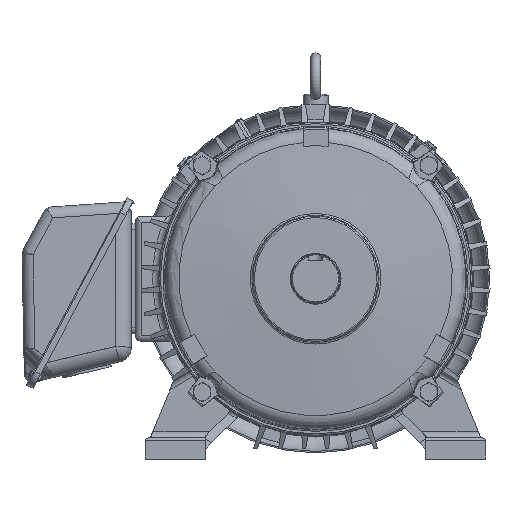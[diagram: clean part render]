
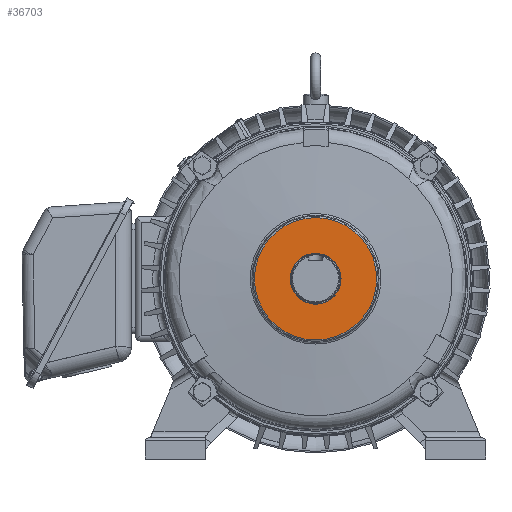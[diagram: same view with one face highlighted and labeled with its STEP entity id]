
A CAD part, front view. The second image highlights one B-rep face of the part: STEP entity #36703.
In plain terms, the highlighted planar face has unit normal (0, -1, 0).
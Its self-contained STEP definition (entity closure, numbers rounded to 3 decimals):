
#3694=CIRCLE('',#39271,25.4);
#3754=CIRCLE('',#39371,61.081);
#8095=ORIENTED_EDGE('',*,*,#16523,.T.);
#8096=ORIENTED_EDGE('',*,*,#16347,.F.);
#16347=EDGE_CURVE('',#20819,#20819,#3694,.T.);
#16523=EDGE_CURVE('',#20938,#20938,#3754,.T.);
#20819=VERTEX_POINT('',#61725);
#20938=VERTEX_POINT('',#63011);
#26708=EDGE_LOOP('',(#8095));
#26709=EDGE_LOOP('',(#8096));
#29127=FACE_BOUND('',#26708,.T.);
#29128=FACE_BOUND('',#26709,.T.);
#31088=PLANE('',#39370);
#36703=ADVANCED_FACE('',(#29127,#29128),#31088,.T.);
#39271=AXIS2_PLACEMENT_3D('',#61724,#44431,#44432);
#39370=AXIS2_PLACEMENT_3D('',#63009,#44650,#44651);
#39371=AXIS2_PLACEMENT_3D('',#63010,#44652,#44653);
#44431=DIRECTION('',(0.,-1.,0.));
#44432=DIRECTION('',(0.,0.,-1.));
#44650=DIRECTION('',(0.,-1.,0.));
#44651=DIRECTION('',(0.,0.,-1.));
#44652=DIRECTION('',(0.,-1.,0.));
#44653=DIRECTION('',(0.,0.,-1.));
#61724=CARTESIAN_POINT('',(0.,0.,0.));
#61725=CARTESIAN_POINT('',(0.,0.,-25.4));
#63009=CARTESIAN_POINT('',(0.,0.,25.4));
#63010=CARTESIAN_POINT('',(0.,0.,0.));
#63011=CARTESIAN_POINT('',(0.,0.,-61.081));
